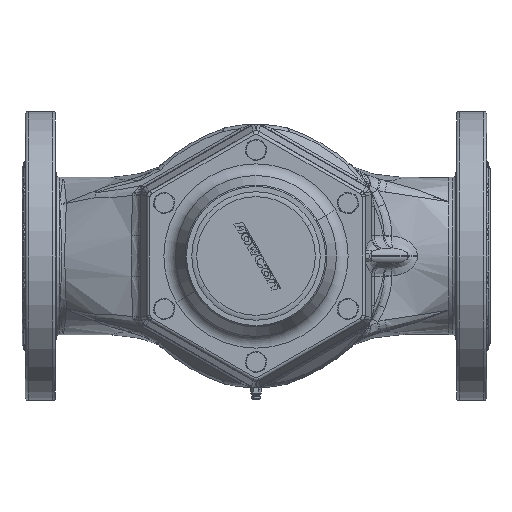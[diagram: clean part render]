
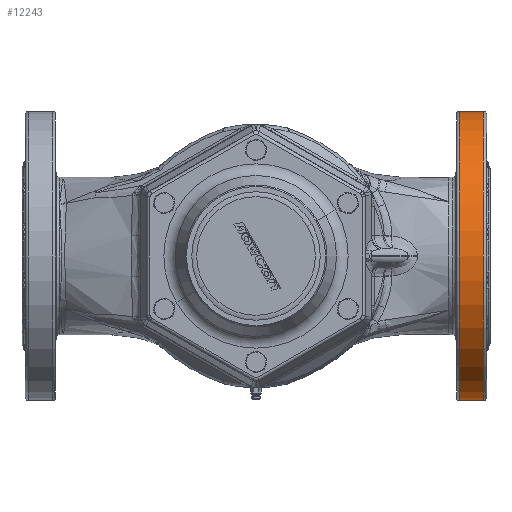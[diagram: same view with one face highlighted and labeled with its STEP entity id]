
A CAD part, front view. The second image highlights one B-rep face of the part: STEP entity #12243.
In plain terms, the highlighted cylindrical face has radius 225 mm (diameter 450 mm), a partial arc.
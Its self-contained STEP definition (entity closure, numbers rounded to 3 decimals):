
#4546 = AXIS2_PLACEMENT_3D ( 'NONE', #174374, #64463, #144080 ) ;
#9596 = CARTESIAN_POINT ( 'NONE',  ( -162.327, 0., -225. ) ) ;
#11828 = CARTESIAN_POINT ( 'NONE',  ( -162.327, 0., 0. ) ) ;
#12243 = ADVANCED_FACE ( 'NONE', ( #78806 ), #134265, .T. ) ;
#37538 = LINE ( 'NONE', #61673, #99816 ) ;
#38467 = VERTEX_POINT ( 'NONE', #143870 ) ;
#40677 = EDGE_CURVE ( 'NONE', #112882, #38467, #172779, .T. ) ;
#45909 = EDGE_CURVE ( 'NONE', #74115, #38467, #37538, .T. ) ;
#54653 = ORIENTED_EDGE ( 'NONE', *, *, #40677, .T. ) ;
#57065 = DIRECTION ( 'NONE',  ( 0., 0., -1. ) ) ;
#61673 = CARTESIAN_POINT ( 'NONE',  ( -162.327, 0., 225. ) ) ;
#64463 = DIRECTION ( 'NONE',  ( -1., 0., 0. ) ) ;
#74115 = VERTEX_POINT ( 'NONE', #134498 ) ;
#75255 = ORIENTED_EDGE ( 'NONE', *, *, #45909, .F. ) ;
#78806 = FACE_OUTER_BOUND ( 'NONE', #85592, .T. ) ;
#79687 = DIRECTION ( 'NONE',  ( 1., 0., 0. ) ) ;
#80742 = VECTOR ( 'NONE', #133795, 1000. ) ;
#81986 = ORIENTED_EDGE ( 'NONE', *, *, #104386, .T. ) ;
#85592 = EDGE_LOOP ( 'NONE', ( #100964, #81986, #54653, #75255 ) ) ;
#90502 = CARTESIAN_POINT ( 'NONE',  ( 316., 0., -225. ) ) ;
#99816 = VECTOR ( 'NONE', #171602, 1000. ) ;
#100964 = ORIENTED_EDGE ( 'NONE', *, *, #106771, .T. ) ;
#104386 = EDGE_CURVE ( 'NONE', #126551, #112882, #145445, .T. ) ;
#106771 = EDGE_CURVE ( 'NONE', #74115, #126551, #161118, .T. ) ;
#112882 = VERTEX_POINT ( 'NONE', #168360 ) ;
#121205 = AXIS2_PLACEMENT_3D ( 'NONE', #136670, #165214, #57065 ) ;
#124802 = AXIS2_PLACEMENT_3D ( 'NONE', #11828, #79687, #160159 ) ;
#126551 = VERTEX_POINT ( 'NONE', #90502 ) ;
#133795 = DIRECTION ( 'NONE',  ( 1., 0., 0. ) ) ;
#134265 = CYLINDRICAL_SURFACE ( 'NONE', #124802, 225. ) ;
#134498 = CARTESIAN_POINT ( 'NONE',  ( 316., 0., 225. ) ) ;
#136670 = CARTESIAN_POINT ( 'NONE',  ( 316., 0., 0. ) ) ;
#143870 = CARTESIAN_POINT ( 'NONE',  ( 354., 0., 225. ) ) ;
#144080 = DIRECTION ( 'NONE',  ( 0., 0., 1. ) ) ;
#145445 = LINE ( 'NONE', #9596, #80742 ) ;
#160159 = DIRECTION ( 'NONE',  ( 0., 0., 1. ) ) ;
#161118 = CIRCLE ( 'NONE', #121205, 225. ) ;
#165214 = DIRECTION ( 'NONE',  ( 1., 0., 0. ) ) ;
#168360 = CARTESIAN_POINT ( 'NONE',  ( 354., 0., -225. ) ) ;
#171602 = DIRECTION ( 'NONE',  ( 1., 0., 0. ) ) ;
#172779 = CIRCLE ( 'NONE', #4546, 225. ) ;
#174374 = CARTESIAN_POINT ( 'NONE',  ( 354., 0., 0. ) ) ;
